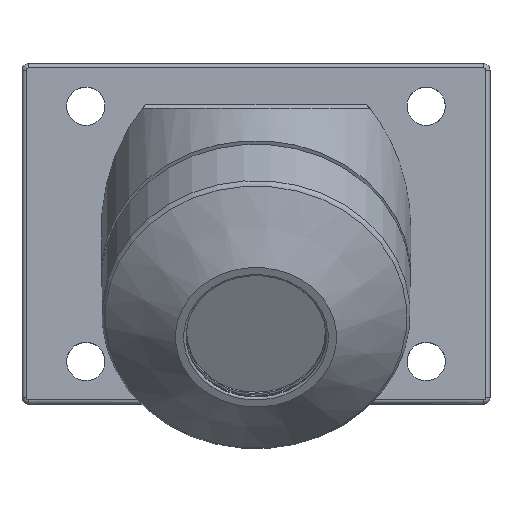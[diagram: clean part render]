
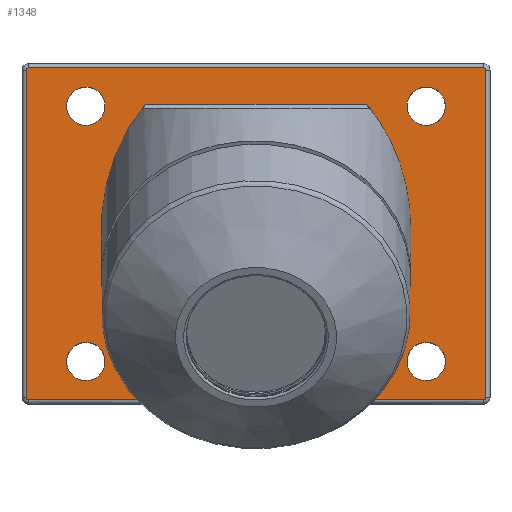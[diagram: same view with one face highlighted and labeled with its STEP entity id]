
A CAD part, top view. The second image highlights one B-rep face of the part: STEP entity #1348.
In plain terms, the highlighted planar face has unit normal (0, 0, 1).
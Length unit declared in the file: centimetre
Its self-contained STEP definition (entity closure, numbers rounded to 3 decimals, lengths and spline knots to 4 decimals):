
#17=ELLIPSE('',#1484,8.4004,7.275);
#18=ELLIPSE('',#1485,8.4004,7.275);
#23=LINE('',#2181,#48);
#25=LINE('',#2204,#50);
#26=LINE('',#2208,#51);
#27=LINE('',#2212,#52);
#28=LINE('',#2216,#53);
#29=LINE('',#2219,#54);
#48=VECTOR('',#1747,10.368);
#50=VECTOR('',#1755,8.4977);
#51=VECTOR('',#1758,15.4);
#52=VECTOR('',#1761,21.4);
#53=VECTOR('',#1764,15.4);
#54=VECTOR('',#1767,8.4977);
#163=FACE_BOUND('',#391,.T.);
#164=FACE_BOUND('',#392,.T.);
#165=FACE_BOUND('',#393,.T.);
#166=FACE_BOUND('',#394,.T.);
#263=FACE_OUTER_BOUND('',#390,.T.);
#390=EDGE_LOOP('',(#950,#951,#952,#953,#954,#955,#956,#957,#958,#959,#960,
#961));
#391=EDGE_LOOP('',(#962));
#392=EDGE_LOOP('',(#963));
#393=EDGE_LOOP('',(#964));
#394=EDGE_LOOP('',(#965));
#558=CIRCLE('',#1486,0.1);
#559=CIRCLE('',#1487,0.1);
#560=CIRCLE('',#1488,0.1);
#561=CIRCLE('',#1489,0.1);
#562=CIRCLE('',#1490,0.9);
#563=CIRCLE('',#1491,0.9);
#564=CIRCLE('',#1492,0.9);
#565=CIRCLE('',#1493,0.9);
#662=VERTEX_POINT('',#2165);
#663=VERTEX_POINT('',#2180);
#665=VERTEX_POINT('',#2199);
#666=VERTEX_POINT('',#2201);
#667=VERTEX_POINT('',#2203);
#668=VERTEX_POINT('',#2205);
#669=VERTEX_POINT('',#2207);
#670=VERTEX_POINT('',#2209);
#671=VERTEX_POINT('',#2211);
#672=VERTEX_POINT('',#2213);
#673=VERTEX_POINT('',#2215);
#674=VERTEX_POINT('',#2217);
#675=VERTEX_POINT('',#2220);
#676=VERTEX_POINT('',#2222);
#677=VERTEX_POINT('',#2224);
#678=VERTEX_POINT('',#2226);
#782=EDGE_CURVE('',#662,#663,#23,.T.);
#785=EDGE_CURVE('',#663,#665,#17,.T.);
#786=EDGE_CURVE('',#666,#662,#18,.T.);
#787=EDGE_CURVE('',#667,#666,#25,.T.);
#788=EDGE_CURVE('',#668,#667,#558,.T.);
#789=EDGE_CURVE('',#669,#668,#26,.T.);
#790=EDGE_CURVE('',#670,#669,#559,.T.);
#791=EDGE_CURVE('',#671,#670,#27,.T.);
#792=EDGE_CURVE('',#672,#671,#560,.T.);
#793=EDGE_CURVE('',#673,#672,#28,.T.);
#794=EDGE_CURVE('',#674,#673,#561,.T.);
#795=EDGE_CURVE('',#665,#674,#29,.T.);
#796=EDGE_CURVE('',#675,#675,#562,.T.);
#797=EDGE_CURVE('',#676,#676,#563,.T.);
#798=EDGE_CURVE('',#677,#677,#564,.T.);
#799=EDGE_CURVE('',#678,#678,#565,.T.);
#950=ORIENTED_EDGE('',*,*,#785,.F.);
#951=ORIENTED_EDGE('',*,*,#782,.F.);
#952=ORIENTED_EDGE('',*,*,#786,.F.);
#953=ORIENTED_EDGE('',*,*,#787,.F.);
#954=ORIENTED_EDGE('',*,*,#788,.F.);
#955=ORIENTED_EDGE('',*,*,#789,.F.);
#956=ORIENTED_EDGE('',*,*,#790,.F.);
#957=ORIENTED_EDGE('',*,*,#791,.F.);
#958=ORIENTED_EDGE('',*,*,#792,.F.);
#959=ORIENTED_EDGE('',*,*,#793,.F.);
#960=ORIENTED_EDGE('',*,*,#794,.F.);
#961=ORIENTED_EDGE('',*,*,#795,.F.);
#962=ORIENTED_EDGE('',*,*,#796,.T.);
#963=ORIENTED_EDGE('',*,*,#797,.T.);
#964=ORIENTED_EDGE('',*,*,#798,.T.);
#965=ORIENTED_EDGE('',*,*,#799,.T.);
#1189=PLANE('',#1483);
#1348=ADVANCED_FACE('',(#263,#163,#164,#165,#166),#1189,.T.);
#1483=AXIS2_PLACEMENT_3D('',#2198,#1749,#1750);
#1484=AXIS2_PLACEMENT_3D('',#2200,#1751,#1752);
#1485=AXIS2_PLACEMENT_3D('',#2202,#1753,#1754);
#1486=AXIS2_PLACEMENT_3D('',#2206,#1756,#1757);
#1487=AXIS2_PLACEMENT_3D('',#2210,#1759,#1760);
#1488=AXIS2_PLACEMENT_3D('',#2214,#1762,#1763);
#1489=AXIS2_PLACEMENT_3D('',#2218,#1765,#1766);
#1490=AXIS2_PLACEMENT_3D('',#2221,#1768,#1769);
#1491=AXIS2_PLACEMENT_3D('',#2223,#1770,#1771);
#1492=AXIS2_PLACEMENT_3D('',#2225,#1772,#1773);
#1493=AXIS2_PLACEMENT_3D('',#2227,#1774,#1775);
#1747=DIRECTION('',(-1.,0.,0.));
#1749=DIRECTION('center_axis',(0.,0.,
1.));
#1750=DIRECTION('ref_axis',(-1.,0.,0.));
#1751=DIRECTION('center_axis',(0.,0.,
1.));
#1752=DIRECTION('ref_axis',(0.,1.,0.));
#1753=DIRECTION('center_axis',(0.,0.,
1.));
#1754=DIRECTION('ref_axis',(0.,1.,0.));
#1755=DIRECTION('',(-1.,0.,0.));
#1756=DIRECTION('center_axis',(0.,0.,
-1.));
#1757=DIRECTION('ref_axis',(0.707,-0.707,0.));
#1758=DIRECTION('',(0.,-1.,0.));
#1759=DIRECTION('center_axis',(0.,0.,
-1.));
#1760=DIRECTION('ref_axis',(0.707,0.707,0.));
#1761=DIRECTION('',(1.,0.,0.));
#1762=DIRECTION('center_axis',(0.,0.,
-1.));
#1763=DIRECTION('ref_axis',(-0.707,0.707,0.));
#1764=DIRECTION('',(0.,1.,0.));
#1765=DIRECTION('center_axis',(0.,0.,
-1.));
#1766=DIRECTION('ref_axis',(-0.707,-0.707,0.));
#1767=DIRECTION('',(-1.,0.,0.));
#1768=DIRECTION('center_axis',(0.,0.,
-1.));
#1769=DIRECTION('ref_axis',(1.,0.,0.));
#1770=DIRECTION('center_axis',(0.,0.,
-1.));
#1771=DIRECTION('ref_axis',(1.,0.,0.));
#1772=DIRECTION('center_axis',(0.,0.,
-1.));
#1773=DIRECTION('ref_axis',(1.,0.,0.));
#1774=DIRECTION('center_axis',(0.,0.,
-1.));
#1775=DIRECTION('ref_axis',(1.,0.,0.));
#2165=CARTESIAN_POINT('',(5.184,8.7285,2.3));
#2180=CARTESIAN_POINT('',(-5.184,8.7285,2.3));
#2181=CARTESIAN_POINT('',(-3.3724,8.7285,2.3));
#2198=CARTESIAN_POINT('Origin',(0.,2.6285,2.3));
#2199=CARTESIAN_POINT('',(-2.2023,-5.1715,2.3));
#2200=CARTESIAN_POINT('Origin',(0.,2.8348,2.3));
#2201=CARTESIAN_POINT('',(2.2023,-5.1715,2.3));
#2202=CARTESIAN_POINT('Origin',(0.,2.8348,2.3));
#2203=CARTESIAN_POINT('',(10.7,-5.1715,2.3));
#2204=CARTESIAN_POINT('',(-5.5,-5.1715,2.3));
#2205=CARTESIAN_POINT('',(10.8,-5.0715,2.3));
#2206=CARTESIAN_POINT('Origin',(10.7,-5.0715,2.3));
#2207=CARTESIAN_POINT('',(10.8,10.3285,2.3));
#2208=CARTESIAN_POINT('',(10.8,-1.3715,2.3));
#2209=CARTESIAN_POINT('',(10.7,10.4285,2.3));
#2210=CARTESIAN_POINT('Origin',(10.7,10.3285,2.3));
#2211=CARTESIAN_POINT('',(-10.7,10.4285,2.3));
#2212=CARTESIAN_POINT('',(5.5,10.4285,2.3));
#2213=CARTESIAN_POINT('',(-10.8,10.3285,2.3));
#2214=CARTESIAN_POINT('Origin',(-10.7,10.3285,2.3));
#2215=CARTESIAN_POINT('',(-10.8,-5.0715,2.3));
#2216=CARTESIAN_POINT('',(-10.8,6.6285,2.3));
#2217=CARTESIAN_POINT('',(-10.7,-5.1715,2.3));
#2218=CARTESIAN_POINT('Origin',(-10.7,-5.0715,2.3));
#2219=CARTESIAN_POINT('',(-5.5,-5.1715,2.3));
#2220=CARTESIAN_POINT('',(-7.1,8.6285,2.3));
#2221=CARTESIAN_POINT('Origin',(-8.,8.6285,2.3));
#2222=CARTESIAN_POINT('',(-7.1,-3.3715,2.3));
#2223=CARTESIAN_POINT('Origin',(-8.,-3.3715,2.3));
#2224=CARTESIAN_POINT('',(8.8944,8.5285,2.3));
#2225=CARTESIAN_POINT('Origin',(8.,8.6285,2.3));
#2226=CARTESIAN_POINT('',(8.9,-3.3715,2.3));
#2227=CARTESIAN_POINT('Origin',(8.,-3.3715,2.3));
